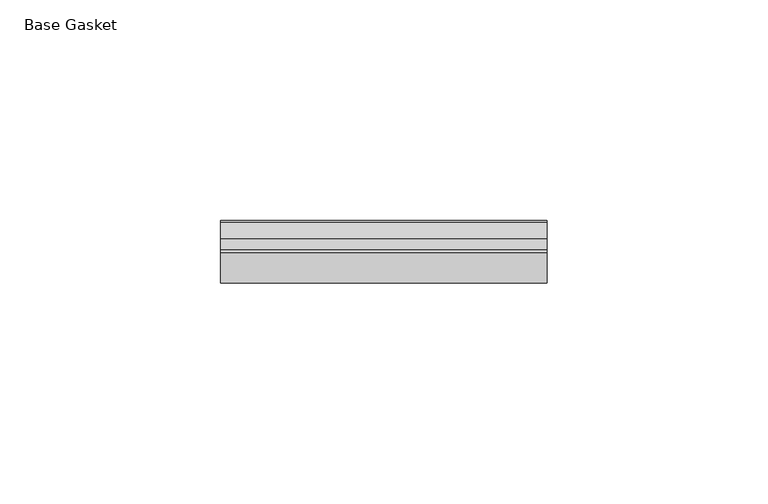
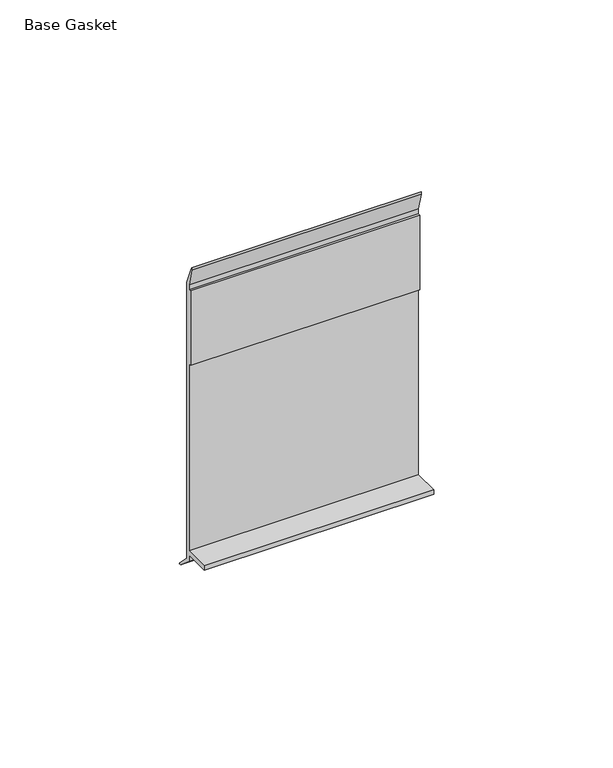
"""IFC4 building model written with IfcOpenShell, lengths in millimetres: furniture geometry, Gasket-Teknion-FHGB-AI_Healthcare-R2021 : Base Gasket."""

from ifc_helpers import new_model, si_unit, frame, origin, place, context, project, spatial, polyline, outline, extrude, source, transform, mapped, element, save


def base_gasket_cd6f9b5f(model_context):
    return source(origin(), model_context, "Body", "SweptSolid", [
        extrude(outline(polyline([(3.7283812, 98.4568417), (3.7283812, 4.3498477), (7.4222115, 0.6560174), (7.8482342, 0.0), (6.8281054, 0.3520979), (2.2043812, 4.3498477), (2.1334222, 6.3818476), (-6.2405171, 6.3818476), (-6.2405171, 7.9398773), (2.2043812, 7.9398773), (2.2043812, 71.4693447), (1.4106313, 71.4693447), (1.4106313, 96.8693477), (2.2043812, 96.8693477), (2.2043812, 98.4568417), (0.6755308, 104.4162708), (0.6755308, 105.2002997), (1.1891543, 104.587663), (3.7283812, 98.4568417)])), frame((-1527.8982117, 0.0, 0.0), z_axis=(1.0, 0.0, 0.0), x_axis=(0.0, 1.0, 0.0)), (0.0, 0.0, 1.0), 73.8632),
    ])


if __name__ == "__main__":
    model = new_model("IFC4")
    model_context = context("Model", 3, world=origin())
    ifc_project = project(units=[si_unit("LENGTHUNIT", "METRE", prefix="MILLI")], contexts=[model_context])
    site = spatial("IfcSite", under=ifc_project)
    building = spatial("IfcBuilding", under=site)
    placement = place(None, origin())
    base_gasket_shape = base_gasket_cd6f9b5f(model_context)
    element("IfcFurniture", 1, ObjectType="Gasket-Teknion-FHGB-AI_Healthcare-R2021 : Base Gasket", at=placement, inside=building, context=model_context, shape_type="MappedRepresentation", body=[
        mapped(base_gasket_shape, transform((0.0, 0.0, 0.0), x_axis=(1.0, 0.0, 0.0), y_axis=(0.0, 1.0, 0.0), z_axis=(0.0, 0.0, 1.0))),
    ])
    save(model, "model.ifc")
